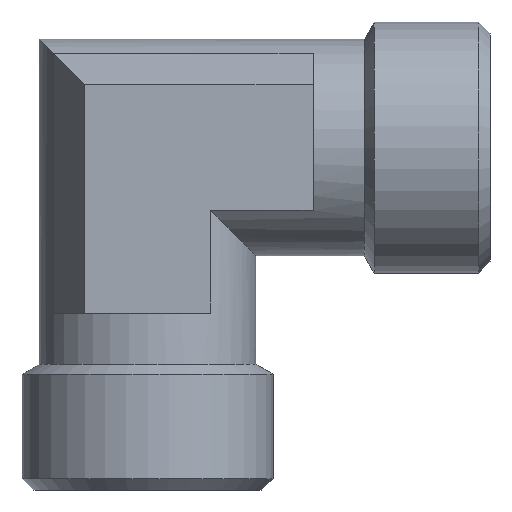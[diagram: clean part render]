
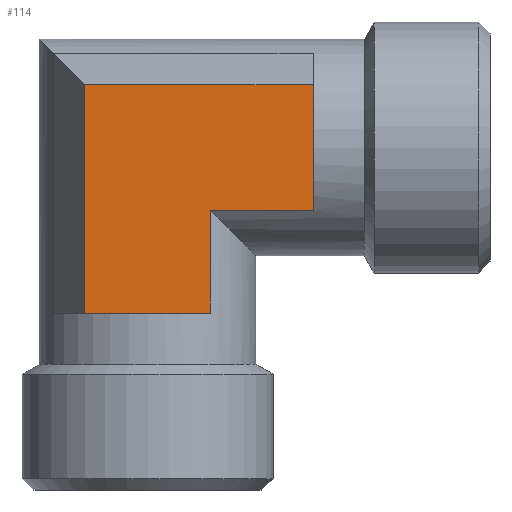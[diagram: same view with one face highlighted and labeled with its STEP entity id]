
A CAD part, front view. The second image highlights one B-rep face of the part: STEP entity #114.
In plain terms, the highlighted planar face has unit normal (0, -1, 0).
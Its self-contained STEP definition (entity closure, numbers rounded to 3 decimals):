
#114 = ADVANCED_FACE( '', ( #252 ), #253, .T. );
#252 = FACE_OUTER_BOUND( '', #403, .T. );
#253 = PLANE( '', #404 );
#403 = EDGE_LOOP( '', ( #638, #639, #640, #641, #642, #643, #644, #645 ) );
#404 = AXIS2_PLACEMENT_3D( '', #646, #647, #648 );
#638 = ORIENTED_EDGE( '', *, *, #815, .F. );
#639 = ORIENTED_EDGE( '', *, *, #833, .F. );
#640 = ORIENTED_EDGE( '', *, *, #863, .F. );
#641 = ORIENTED_EDGE( '', *, *, #858, .F. );
#642 = ORIENTED_EDGE( '', *, *, #864, .F. );
#643 = ORIENTED_EDGE( '', *, *, #845, .F. );
#644 = ORIENTED_EDGE( '', *, *, #841, .F. );
#645 = ORIENTED_EDGE( '', *, *, #865, .F. );
#646 = CARTESIAN_POINT( '', ( 5.5, -9.5, -5.5 ) );
#647 = DIRECTION( '', ( 0., -1., 0. ) );
#648 = DIRECTION( '', ( 0., 0., -1. ) );
#815 = EDGE_CURVE( '', #955, #958, #959, .T. );
#833 = EDGE_CURVE( '', #982, #955, #984, .T. );
#841 = EDGE_CURVE( '', #993, #995, #996, .T. );
#845 = EDGE_CURVE( '', #995, #999, #1001, .T. );
#858 = EDGE_CURVE( '', #1017, #1018, #1019, .T. );
#863 = EDGE_CURVE( '', #1018, #982, #1025, .T. );
#864 = EDGE_CURVE( '', #999, #1017, #1026, .T. );
#865 = EDGE_CURVE( '', #958, #993, #1027, .T. );
#955 = VERTEX_POINT( '', #1130 );
#958 = VERTEX_POINT( '', #1133 );
#959 = LINE( '', #1134, #1135 );
#982 = VERTEX_POINT( '', #1163 );
#984 = LINE( '', #1166, #1167 );
#993 = VERTEX_POINT( '', #1177 );
#995 = VERTEX_POINT( '', #1180 );
#996 = LINE( '', #1181, #1182 );
#999 = VERTEX_POINT( '', #1186 );
#1001 = LINE( '', #1188, #1189 );
#1017 = VERTEX_POINT( '', #1207 );
#1018 = VERTEX_POINT( '', #1208 );
#1019 = LINE( '', #1209, #1210 );
#1025 = LINE( '', #1219, #1220 );
#1026 = LINE( '', #1221, #1222 );
#1027 = LINE( '', #1223, #1224 );
#1130 = CARTESIAN_POINT( '', ( 14.5, -9.5, 0. ) );
#1133 = CARTESIAN_POINT( '', ( 14.5, -9.5, -5.5 ) );
#1134 = CARTESIAN_POINT( '', ( 14.5, -9.5, 5.5 ) );
#1135 = VECTOR( '', #1317, 1000. );
#1163 = CARTESIAN_POINT( '', ( 14.5, -9.5, 5.5 ) );
#1166 = CARTESIAN_POINT( '', ( 14.5, -9.5, 5.5 ) );
#1167 = VECTOR( '', #1342, 1000. );
#1177 = CARTESIAN_POINT( '', ( 5.5, -9.5, -5.5 ) );
#1180 = CARTESIAN_POINT( '', ( 5.5, -9.5, -14.5 ) );
#1181 = CARTESIAN_POINT( '', ( 5.5, -9.5, -5.5 ) );
#1182 = VECTOR( '', #1351, 1000. );
#1186 = CARTESIAN_POINT( '', ( 0., -9.5, -14.5 ) );
#1188 = CARTESIAN_POINT( '', ( 5.5, -9.5, -14.5 ) );
#1189 = VECTOR( '', #1356, 1000. );
#1207 = CARTESIAN_POINT( '', ( -5.5, -9.5, -14.5 ) );
#1208 = CARTESIAN_POINT( '', ( -5.5, -9.5, 5.5 ) );
#1209 = CARTESIAN_POINT( '', ( -5.5, -9.5, -14.5 ) );
#1210 = VECTOR( '', #1377, 1000. );
#1219 = CARTESIAN_POINT( '', ( -5.5, -9.5, 5.5 ) );
#1220 = VECTOR( '', #1381, 1000. );
#1221 = CARTESIAN_POINT( '', ( 5.5, -9.5, -14.5 ) );
#1222 = VECTOR( '', #1382, 1000. );
#1223 = CARTESIAN_POINT( '', ( 14.5, -9.5, -5.5 ) );
#1224 = VECTOR( '', #1383, 1000. );
#1317 = DIRECTION( '', ( 0., 0., -1. ) );
#1342 = DIRECTION( '', ( 0., 0., -1. ) );
#1351 = DIRECTION( '', ( 0., 0., -1. ) );
#1356 = DIRECTION( '', ( -1., 0., 0. ) );
#1377 = DIRECTION( '', ( 0., 0., 1. ) );
#1381 = DIRECTION( '', ( 1., 0., 0. ) );
#1382 = DIRECTION( '', ( -1., 0., 0. ) );
#1383 = DIRECTION( '', ( -1., 0., 0. ) );
